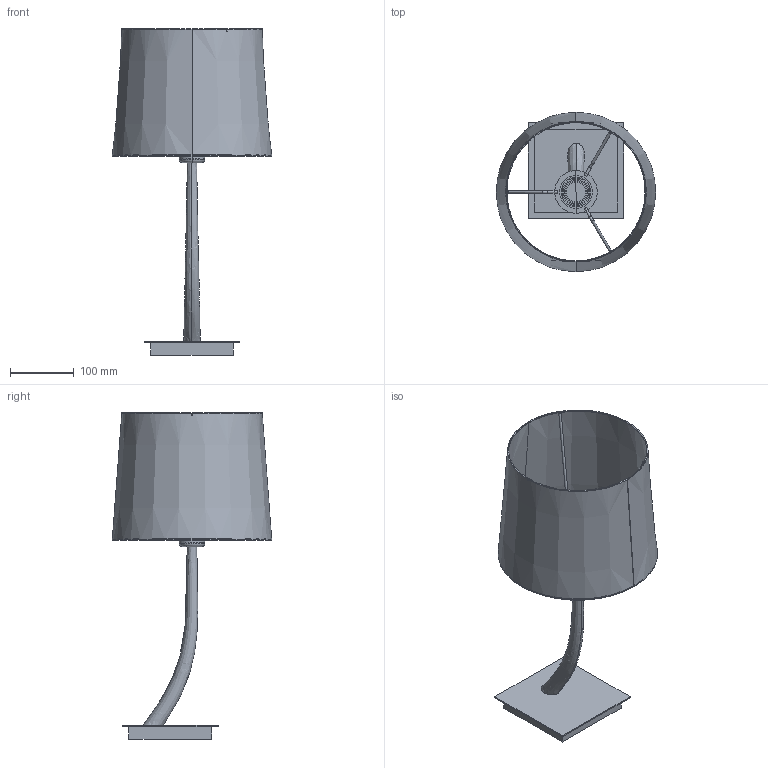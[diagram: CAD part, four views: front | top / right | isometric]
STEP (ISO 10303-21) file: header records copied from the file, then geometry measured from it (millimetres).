
FILE_DESCRIPTION(/* description */ (''),/* implementation_level */ '2;1');
FILE_NAME(/* name */ 'C:\Users\FrancoSartori\Documents\FARO\01_En Proceso\00_REM\03_Publicación\29684-06.stp',/* time_stamp */ '2021-07-07T12:33:57+02:00',/* author */ ('FrancoSartori'),/* organization */ (''),/* preprocessor_version */ 'ST-DEVELOPER v18.1',/* originating_system */ 'AutoCAD Mechanical',/* authorisation */ '');
FILE_SCHEMA (('AUTOMOTIVE_DESIGN { 1 0 10303 214 3 1 1 }'));
Length unit declared in the file: millimetre
Products named in the file (3): Product; 29684_ 29685_ - STR-685704-Export; 2P012X - SH-685705-Export
Assembly tree (2 placements, depth 2):
  Product
    29684_ 29685_ - STR-685704-Export
    2P012X - SH-685705-Export
Bounding box: 249.85 x 249.85 x 512.01 mm (x, y, z)
Volume: 751531.2 mm3; surface area: 706833.4 mm2
Topology: 9 solids, 9 shells, 195 faces, 389 edges, 206 vertices
Faces by surface type: plane 89, cylinder 78, torus 18, cone 8, bspline 2
Entity records: 6944 total; most frequent: CARTESIAN_POINT 2855, DIRECTION 899, ORIENTED_EDGE 778, EDGE_CURVE 389, AXIS2_PLACEMENT_3D 360, VERTEX_POINT 206, EDGE_LOOP 197, FACE_OUTER_BOUND 195
